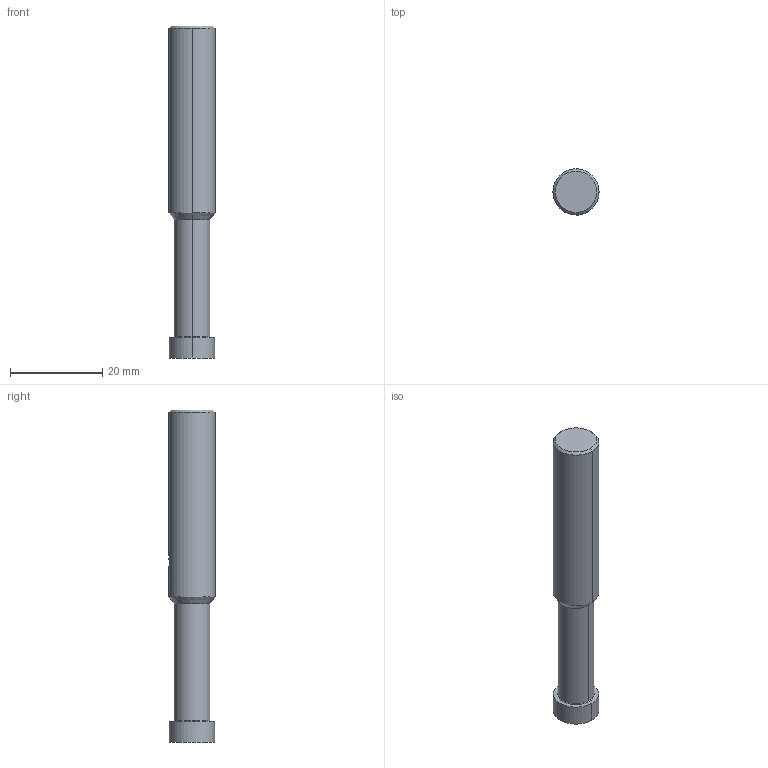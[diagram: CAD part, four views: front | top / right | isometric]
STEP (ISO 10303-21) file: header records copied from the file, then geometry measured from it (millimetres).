
FILE_DESCRIPTION(('no description'),'unknown implementation level');
FILE_NAME('solideusrCttaErWpdDJyw7JFuo_7HeA_1.STP',' ',('CIMSOURCE GmbH'),('CADClick - KiM GmbH - www.kimweb.de'),'unknown preprocess','ACIS','unknown authorization');
FILE_SCHEMA(('automotive_design'));
Length unit declared in the file: millimetre
Products named in the file (2): NOCUT; CUT
Bounding box: 10 x 10 x 72 mm (x, y, z)
Volume: 4809.2 mm3; surface area: 2356.3 mm2
Topology: 2 solids, 2 shells, 30 faces, 69 edges, 44 vertices
Faces by surface type: cylinder 14, plane 10, cone 6
Entity records: 1944 total; most frequent: CARTESIAN_POINT 400, DIRECTION 153, STYLED_ITEM 145, PRESENTATION_STYLE_ASSIGNMENT 145, COLOUR_RGB 145, ORIENTED_EDGE 138, EDGE_CURVE 69, CURVE_STYLE 69
